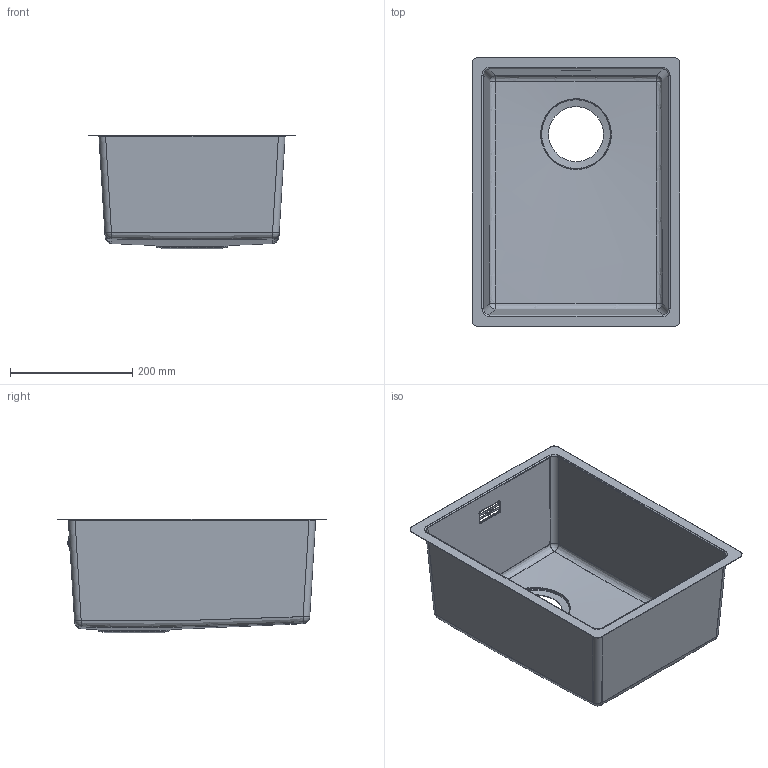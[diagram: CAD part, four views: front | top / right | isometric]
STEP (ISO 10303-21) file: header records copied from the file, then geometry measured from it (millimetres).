
FILE_DESCRIPTION(/* description */ (''),/* implementation_level */ '2;1');
FILE_NAME(/* name */ 'R40850_S_SST_CAD_V2508.stp',/* time_stamp */ '2025-08-19T10:31:51+02:00',/* author */ (''),/* organization */ (''),/* preprocessor_version */ 'ST-DEVELOPER v18.102',/* originating_system */ 'SIEMENS PLM Software NX2206.1700',/* authorisation */ '');
FILE_SCHEMA (('AUTOMOTIVE_DESIGN { 1 0 10303 214 3 1 1 1 }'));
Length unit declared in the file: millimetre
Products named in the file (1): Vero 30x40 (L) OKG_objects
Bounding box: 340 x 440 x 186.47 mm (x, y, z)
Volume: 323249.3 mm3; surface area: 720286.2 mm2
Topology: 1 solids, 1 shells, 148 faces, 382 edges, 231 vertices
Faces by surface type: cylinder 42, plane 34, torus 21, extrusion 21, bspline 16, sphere 8, cone 6
Full cylindrical faces by diameter (mm): 90 x1, 114 x1, 115.8 x1
Entity records: 5796 total; most frequent: CARTESIAN_POINT 2276, DIRECTION 728, ORIENTED_EDGE 722, EDGE_CURVE 361, AXIS2_PLACEMENT_3D 282, VERTEX_POINT 225, EDGE_LOOP 170, VECTOR 164
